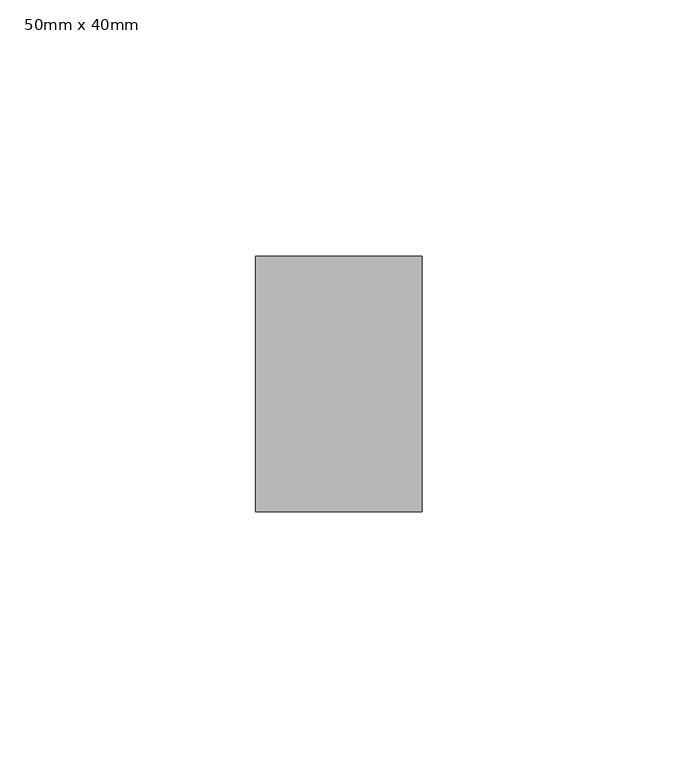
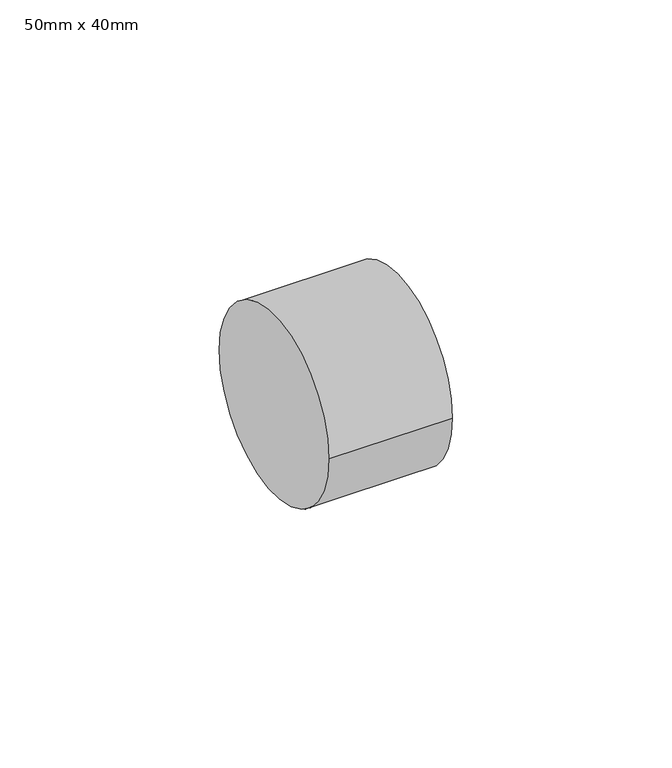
"""IFC4 building model written with IfcOpenShell, lengths in millimetres: pipe fitting geometry, PipeFitting_HTA_CPVC_ReducingBushesShortPattern : 50mm x 40mm."""

from ifc_helpers import new_model, si_unit, point, frame, origin, origin_2d, place, context, project, spatial, circle_curve, trimmed, segment, composite_curve, outline, extrude, source, transform, mapped, element, save


def pipe_fitting_50mm_x_40mm_88de2d80(model_context):
    return source(origin(), model_context, "Body", "SweptSolid", [
        extrude(outline(composite_curve([segment(trimmed(circle_curve(origin_2d(), 25.0), [point((-25.0, 0.0))], [point((25.0, 0.0))], False, "CARTESIAN"), True, "CONTINUOUS"), segment(trimmed(circle_curve(origin_2d(), 25.0), [point((25.0, 0.0))], [point((-25.0, 0.0))], False, "CARTESIAN"), True, "CONTINUOUS")], self_intersect=False)), frame((-16.25, 0.0, 0.0), z_axis=(1.0, 0.0, 0.0), x_axis=(0.0, 1.0, 0.0)), (0.0, 0.0, 1.0), 32.5),
    ])


if __name__ == "__main__":
    model = new_model("IFC4")
    model_context = context("Model", 3, world=origin())
    ifc_project = project(units=[si_unit("LENGTHUNIT", "METRE", prefix="MILLI")], contexts=[model_context])
    site = spatial("IfcSite", under=ifc_project)
    building = spatial("IfcBuilding", under=site)
    placement = place(None, origin())
    pipe_fitting_50mm_x_40mm_shape = pipe_fitting_50mm_x_40mm_88de2d80(model_context)
    element("IfcPipeFitting", 1, ObjectType="PipeFitting_HTA_CPVC_ReducingBushesShortPattern : 50mm x 40mm", at=placement, inside=building, context=model_context, shape_type="MappedRepresentation", body=[
        mapped(pipe_fitting_50mm_x_40mm_shape, transform((0.0, 0.0, 0.0), x_axis=(1.0, 0.0, 0.0), y_axis=(0.0, 1.0, 0.0), z_axis=(0.0, 0.0, 1.0))),
    ])
    save(model, "model.ifc")
